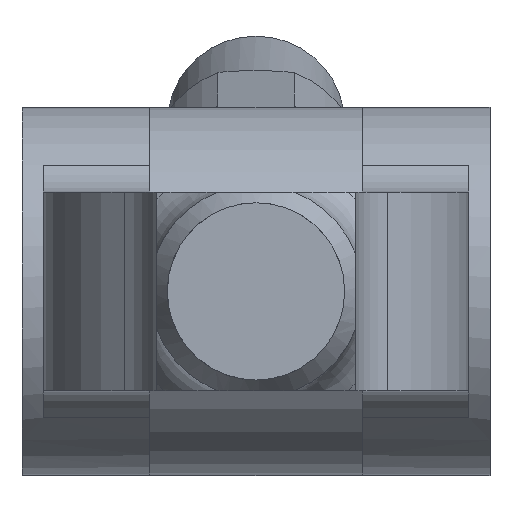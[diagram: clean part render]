
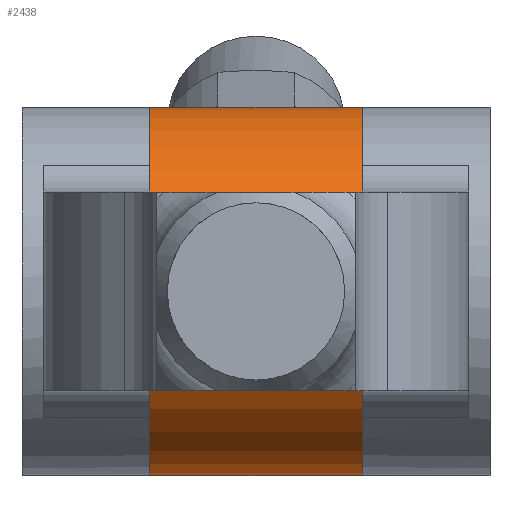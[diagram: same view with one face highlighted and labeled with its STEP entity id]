
A CAD part, left-side view. The second image highlights one B-rep face of the part: STEP entity #2438.
In plain terms, the highlighted cylindrical face has radius 26 mm (diameter 52 mm), a full revolution.
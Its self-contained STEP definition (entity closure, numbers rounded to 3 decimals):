
#1546=CARTESIAN_POINT('',(18.961,-14.,17.789));
#1547=VERTEX_POINT('',#1546);
#1565=CARTESIAN_POINT('',(18.961,14.,17.789));
#1566=VERTEX_POINT('',#1565);
#1574=CARTESIAN_POINT('',(18.961,14.,17.789));
#1575=DIRECTION('',(0.0,-1.0,0.0));
#1576=VECTOR('',#1575,28.);
#1577=LINE('',#1574,#1576);
#1578=EDGE_CURVE('',#1566,#1547,#1577,.T.);
#1706=CARTESIAN_POINT('',(18.961,14.,-17.789));
#1707=VERTEX_POINT('',#1706);
#1725=CARTESIAN_POINT('',(18.961,-14.,-17.789));
#1726=VERTEX_POINT('',#1725);
#1734=CARTESIAN_POINT('',(18.961,-14.,-17.789));
#1735=DIRECTION('',(0.0,1.0,0.0));
#1736=VECTOR('',#1735,28.);
#1737=LINE('',#1734,#1736);
#1738=EDGE_CURVE('',#1726,#1707,#1737,.T.);
#2040=CARTESIAN_POINT('',(0.0,14.,0.0));
#2041=DIRECTION('',(0.0,1.0,0.0));
#2042=DIRECTION('',(-0.843,0.0,0.538));
#2043=AXIS2_PLACEMENT_3D('',#2040,#2041,#2042);
#2044=CIRCLE('',#2043,26.);
#2045=EDGE_CURVE('',#1566,#1707,#2044,.T.);
#2332=CARTESIAN_POINT('',(26.,15.,0.));
#2333=VERTEX_POINT('',#2332);
#2334=CARTESIAN_POINT('',(0.0,15.,0.0));
#2335=DIRECTION('',(0.0,1.0,0.0));
#2336=DIRECTION('',(-1.0,0.0,0.0));
#2337=AXIS2_PLACEMENT_3D('',#2334,#2335,#2336);
#2338=CIRCLE('',#2337,26.);
#2339=EDGE_CURVE('',#2333,#2333,#2338,.T.);
#2360=CARTESIAN_POINT('',(26.,-15.,0.));
#2361=VERTEX_POINT('',#2360);
#2362=CARTESIAN_POINT('',(0.0,-15.,0.0));
#2363=DIRECTION('',(0.0,1.0,0.0));
#2364=DIRECTION('',(-1.0,0.0,0.0));
#2365=AXIS2_PLACEMENT_3D('',#2362,#2363,#2364);
#2366=CIRCLE('',#2365,26.);
#2367=EDGE_CURVE('',#2361,#2361,#2366,.T.);
#2394=CARTESIAN_POINT('',(0.0,-14.,0.0));
#2395=DIRECTION('',(0.0,-1.0,0.0));
#2396=DIRECTION('',(-0.843,0.0,0.538));
#2397=AXIS2_PLACEMENT_3D('',#2394,#2395,#2396);
#2398=CIRCLE('',#2397,26.);
#2399=EDGE_CURVE('',#1726,#1547,#2398,.T.);
#2421=CARTESIAN_POINT('',(0.0,0.0,0.0));
#2422=DIRECTION('',(0.0,1.0,0.0));
#2423=DIRECTION('',(-0.843,0.0,0.538));
#2424=AXIS2_PLACEMENT_3D('',#2421,#2422,#2423);
#2425=CYLINDRICAL_SURFACE('',#2424,26.);
#2426=ORIENTED_EDGE('',*,*,#2339,.F.);
#2427=EDGE_LOOP('',(#2426));
#2428=FACE_OUTER_BOUND('',#2427,.T.);
#2429=ORIENTED_EDGE('',*,*,#2045,.T.);
#2430=ORIENTED_EDGE('',*,*,#1738,.F.);
#2431=ORIENTED_EDGE('',*,*,#2399,.T.);
#2432=ORIENTED_EDGE('',*,*,#1578,.F.);
#2433=EDGE_LOOP('',(#2429,#2430,#2431,#2432));
#2434=FACE_BOUND('',#2433,.T.);
#2435=ORIENTED_EDGE('',*,*,#2367,.T.);
#2436=EDGE_LOOP('',(#2435));
#2437=FACE_BOUND('',#2436,.T.);
#2438=ADVANCED_FACE('',(#2428,#2434,#2437),#2425,.T.);
